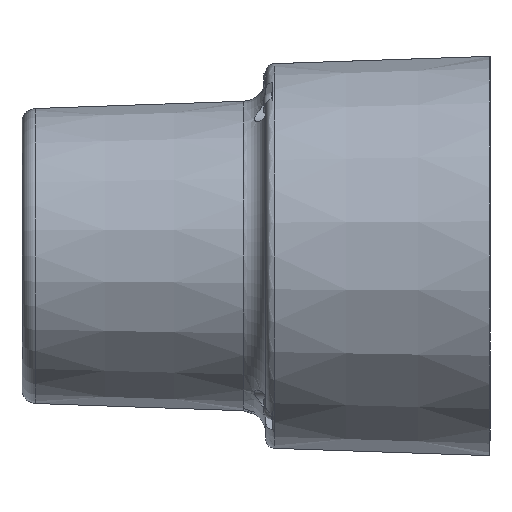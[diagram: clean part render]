
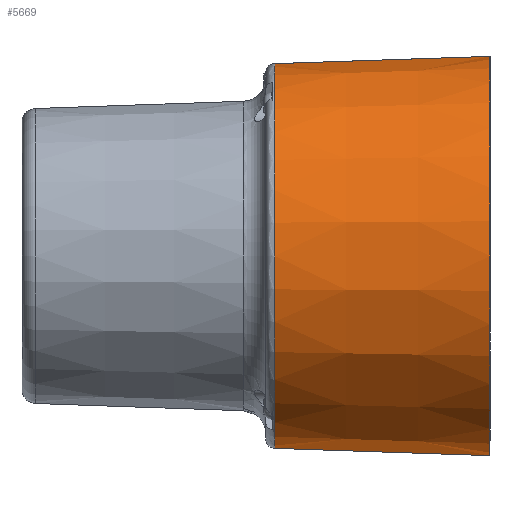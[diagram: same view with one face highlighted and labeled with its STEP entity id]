
A CAD part, left-side view. The second image highlights one B-rep face of the part: STEP entity #5669.
In plain terms, the highlighted conical face has half-angle 1.939 degrees and reference radius 43 mm.
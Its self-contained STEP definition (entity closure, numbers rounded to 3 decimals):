
#15 = LINE ( 'NONE', #2129, #729 ) ;
#595 = DIRECTION ( 'NONE',  ( 0., -1., 0. ) ) ;
#670 = DIRECTION ( 'NONE',  ( 0., 0., 1. ) ) ;
#692 = ORIENTED_EDGE ( 'NONE', *, *, #3995, .T. ) ;
#729 = VECTOR ( 'NONE', #1262, 1000. ) ;
#981 = AXIS2_PLACEMENT_3D ( 'NONE', #5323, #595, #6419 ) ;
#1189 = DIRECTION ( 'NONE',  ( 0., 1., 0. ) ) ;
#1262 = DIRECTION ( 'NONE',  ( 0., -0.999, 0.034 ) ) ;
#1690 = LINE ( 'NONE', #6540, #3839 ) ;
#2129 = CARTESIAN_POINT ( 'NONE',  ( 0., 0., 43. ) ) ;
#2192 = EDGE_CURVE ( 'NONE', #4082, #4865, #3258, .T. ) ;
#2331 = CARTESIAN_POINT ( 'NONE',  ( 0., 46.368, 41.43 ) ) ;
#2365 = ORIENTED_EDGE ( 'NONE', *, *, #2192, .T. ) ;
#2765 = DIRECTION ( 'NONE',  ( 0., -1., 0. ) ) ;
#2893 = EDGE_CURVE ( 'NONE', #6157, #4865, #15, .T. ) ;
#2940 = CARTESIAN_POINT ( 'NONE',  ( 0., 0., -43. ) ) ;
#3057 = AXIS2_PLACEMENT_3D ( 'NONE', #6613, #2765, #4925 ) ;
#3160 = FACE_OUTER_BOUND ( 'NONE', #6721, .T. ) ;
#3258 = CIRCLE ( 'NONE', #4023, 43. ) ;
#3795 = DIRECTION ( 'NONE',  ( 0., -0.999, -0.034 ) ) ;
#3839 = VECTOR ( 'NONE', #3795, 1000. ) ;
#3854 = CONICAL_SURFACE ( 'NONE', #981, 43., 0.034 ) ;
#3995 = EDGE_CURVE ( 'NONE', #6157, #4302, #5727, .T. ) ;
#4023 = AXIS2_PLACEMENT_3D ( 'NONE', #4270, #1189, #670 ) ;
#4082 = VERTEX_POINT ( 'NONE', #2940 ) ;
#4135 = CARTESIAN_POINT ( 'NONE',  ( 0., 0., 43. ) ) ;
#4270 = CARTESIAN_POINT ( 'NONE',  ( 0., 0., 0. ) ) ;
#4302 = VERTEX_POINT ( 'NONE', #5583 ) ;
#4508 = ORIENTED_EDGE ( 'NONE', *, *, #2893, .F. ) ;
#4596 = EDGE_CURVE ( 'NONE', #4302, #4082, #1690, .T. ) ;
#4865 = VERTEX_POINT ( 'NONE', #4135 ) ;
#4925 = DIRECTION ( 'NONE',  ( 0., 0., -1. ) ) ;
#5323 = CARTESIAN_POINT ( 'NONE',  ( 0., 0., 0. ) ) ;
#5583 = CARTESIAN_POINT ( 'NONE',  ( 0., 46.368, -41.43 ) ) ;
#5669 = ADVANCED_FACE ( 'NONE', ( #3160 ), #3854, .T. ) ;
#5727 = CIRCLE ( 'NONE', #3057, 41.43 ) ;
#6157 = VERTEX_POINT ( 'NONE', #2331 ) ;
#6419 = DIRECTION ( 'NONE',  ( 0., 0., 1. ) ) ;
#6451 = ORIENTED_EDGE ( 'NONE', *, *, #4596, .T. ) ;
#6540 = CARTESIAN_POINT ( 'NONE',  ( 0., 0., -43. ) ) ;
#6613 = CARTESIAN_POINT ( 'NONE',  ( 0., 46.368, 0. ) ) ;
#6721 = EDGE_LOOP ( 'NONE', ( #4508, #692, #6451, #2365 ) ) ;
